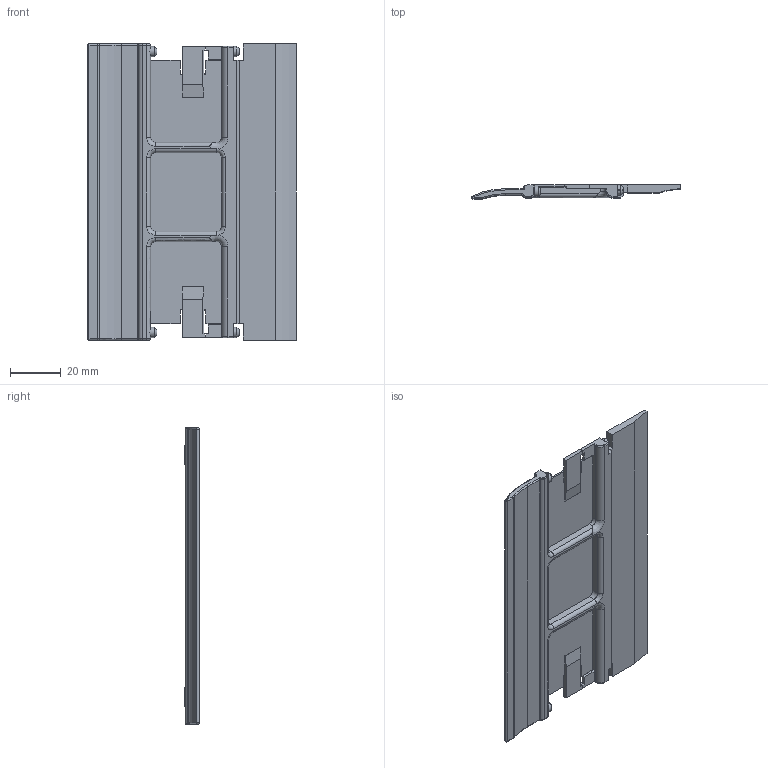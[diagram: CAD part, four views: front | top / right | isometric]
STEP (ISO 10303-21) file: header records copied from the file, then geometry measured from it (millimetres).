
FILE_DESCRIPTION((''),'2;1');
FILE_NAME('C:\Uebbing\PARAMETERKETTEN\KOLIBRI\Kol_65_135_5\Kol_65_135_5 Klappdeckel gesägt 02.stp','2011-11-02T15:12:57',('Uebbing'),(''),'Autodesk Inventor 10','Autodesk Inventor 10','');
FILE_SCHEMA(('AUTOMOTIVE_DESIGN { 1 0 10303 214 1 1 1 1 }'));
Length unit declared in the file: millimetre
Products named in the file (1): Kol_65_135_5 Klappdeckel gesägt 02
Bounding box: 82.26 x 5.6 x 116.6 mm (x, y, z)
Volume: 22373 mm3; surface area: 21006.3 mm2
Topology: 1 solids, 1 shells, 204 faces, 540 edges, 340 vertices
Faces by surface type: bspline 91, plane 63, cylinder 35, torus 12, cone 3
Full cylindrical faces by diameter (mm): 4 x1
Entity records: 7090 total; most frequent: CARTESIAN_POINT 2274, ORIENTED_EDGE 1068, DIRECTION 904, EDGE_CURVE 534, VECTOR 360, LINE 360, VERTEX_POINT 338, AXIS2_PLACEMENT_3D 272
